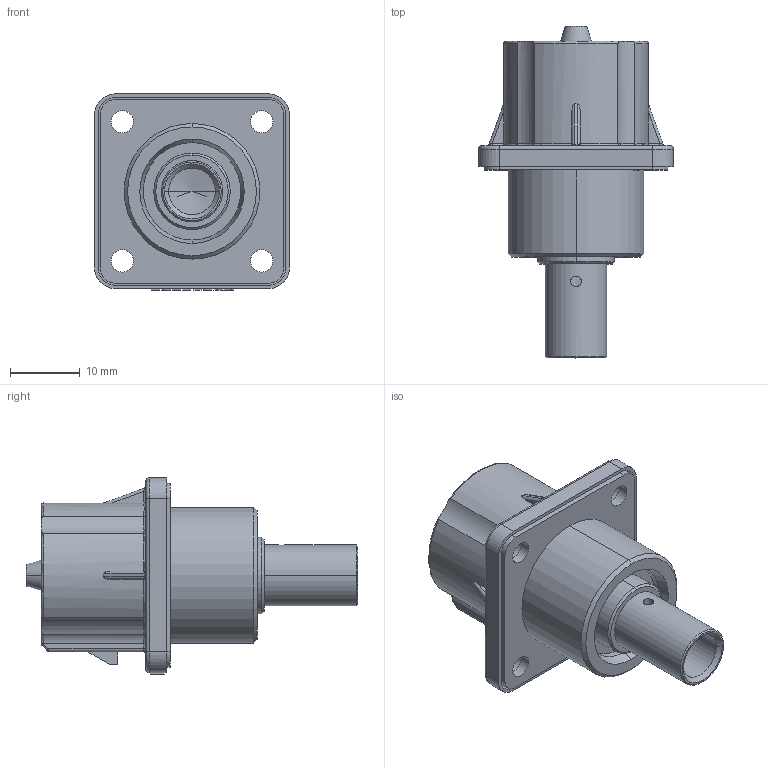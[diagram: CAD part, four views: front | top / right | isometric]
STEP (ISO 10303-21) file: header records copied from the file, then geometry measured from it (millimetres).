
FILE_DESCRIPTION (( 'STEP AP214' ), '1' );
FILE_NAME ('PL00X-121-30-XXXXXXXX.STEP', '2014-05-07T06:15:16', ( '' ), ( '' ), 'SwSTEP 2.0', 'SolidWorks 2012', '' );
FILE_SCHEMA (( 'AUTOMOTIVE_DESIGN' ));
Length unit declared in the file: millimetre
Products named in the file (1): PL00X-121-30-XXXXXXXX
Bounding box: 28 x 47.7 x 28.2 mm (x, y, z)
Volume: 10081 mm3; surface area: 5575.6 mm2
Topology: 2 solids, 2 shells, 359 faces, 901 edges, 570 vertices
Faces by surface type: plane 180, cylinder 102, torus 29, cone 24, bspline 20, sphere 4
Entity records: 15680 total; most frequent: CARTESIAN_POINT 3169, ORIENTED_EDGE 1786, DIRECTION 1741, EDGE_CURVE 893, AXIS2_PLACEMENT_3D 592, VERTEX_POINT 568, VECTOR 557, LINE 557
